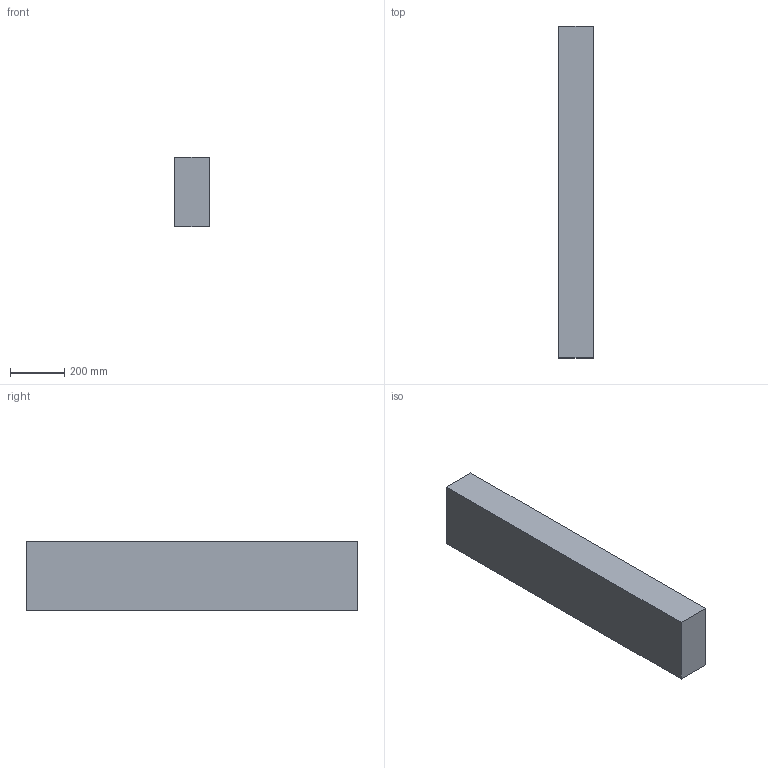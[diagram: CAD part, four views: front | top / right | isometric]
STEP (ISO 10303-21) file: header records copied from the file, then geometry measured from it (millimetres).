
FILE_DESCRIPTION(/* description */ (''),/* implementation_level */ '2;1');
FILE_NAME(/* name */ '5x10x48',/* time_stamp */ '2024-09-20T11:46:14-05:00',/* author */ (''),/* organization */ (''),/* preprocessor_version */ 'ST-DEVELOPER v19.2',/* originating_system */ 'Rhino 8.5',/* authorisation */ '');
FILE_SCHEMA (('CONFIG_CONTROL_DESIGN'));
Length unit declared in the file: inch
Products named in the file (1): Document
Bounding box: 127 x 1219.2 x 254 mm (x, y, z)
Volume: 39328953.6 mm3; surface area: 993546.4 mm2
Topology: 1 solids, 1 shells, 6 faces, 12 edges, 8 vertices
Faces by surface type: plane 6
Entity records: 226 total; most frequent: CARTESIAN_POINT 40, ORIENTED_EDGE 24, EDGE_CURVE 12, B_SPLINE_CURVE_WITH_KNOTS 12, DIRECTION 10, VERTEX_POINT 8, AXIS2_PLACEMENT_3D 8, ORGANIZATION 7
